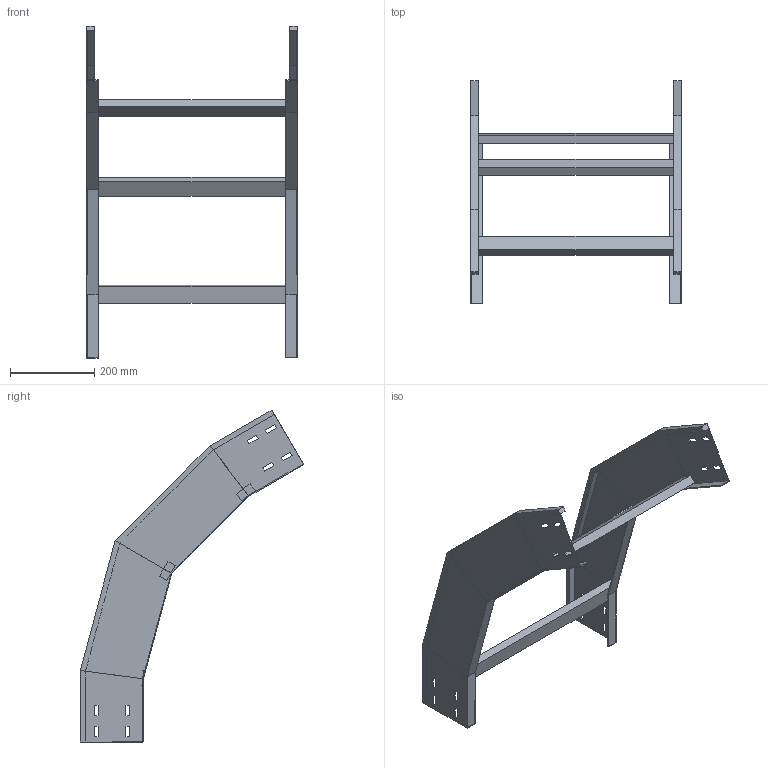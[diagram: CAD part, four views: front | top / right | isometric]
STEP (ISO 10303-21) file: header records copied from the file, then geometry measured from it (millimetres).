
FILE_DESCRIPTION (( 'STEP AP214' ), '1' );
FILE_NAME ('41J5F500.step', '2025-02-21T16:22:38', ( '' ), ( '' ), 'SwSTEP 2.0', 'SolidWorks 2023', '' );
FILE_SCHEMA (( 'AUTOMOTIVE_DESIGN' ));
Length unit declared in the file: millimetre
Products named in the file (3): LONGH.DISCESA_60°_H150_R500; TRAVERSINO_500; 41J5F500
Assembly tree (5 placements, depth 2):
  41J5F500
    LONGH.DISCESA_60°_H150_R500  x2
    TRAVERSINO_500  x3
Bounding box: 500 x 530.08 x 788.22 mm (x, y, z)
Volume: 2191463.6 mm3; surface area: 871896.7 mm2
Topology: 5 solids, 5 shells, 150 faces, 372 edges, 232 vertices
Faces by surface type: plane 150
Entity records: 2216 total; most frequent: CARTESIAN_POINT 372, ORIENTED_EDGE 360, DIRECTION 340, LINE 180, EDGE_CURVE 180, VECTOR 180, VERTEX_POINT 112, EDGE_LOOP 88
